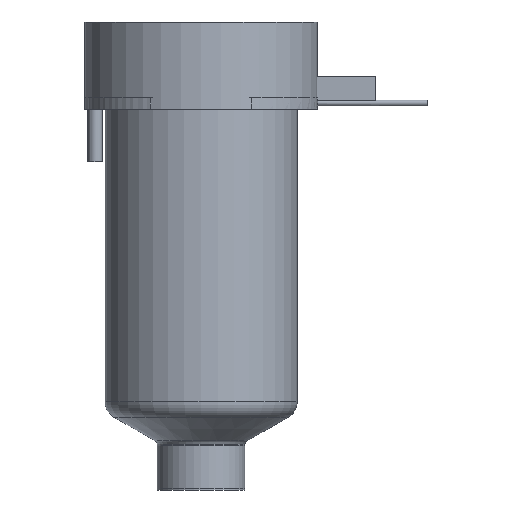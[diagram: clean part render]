
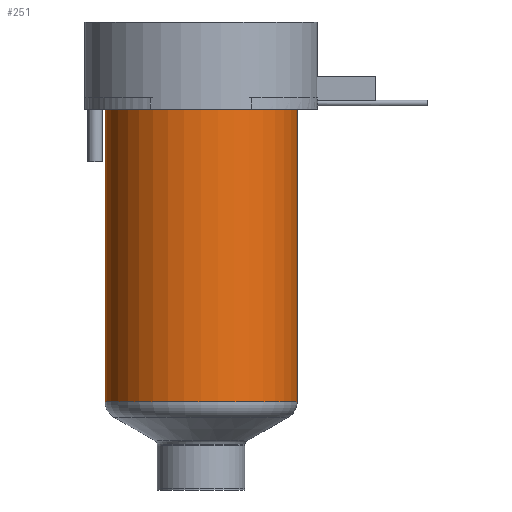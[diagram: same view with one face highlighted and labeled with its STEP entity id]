
A CAD part, front view. The second image highlights one B-rep face of the part: STEP entity #251.
In plain terms, the highlighted cylindrical face has radius 16.5 mm (diameter 33 mm), a full revolution.
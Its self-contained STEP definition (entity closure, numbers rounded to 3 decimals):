
#130=CYLINDRICAL_SURFACE('',#1117,16.5);
#184=FACE_BOUND('',#419,.T.);
#185=FACE_BOUND('',#420,.T.);
#251=ADVANCED_FACE('',(#184,#185),#130,.T.);
#419=EDGE_LOOP('',(#706));
#420=EDGE_LOOP('',(#707));
#487=CIRCLE('',#1115,16.5);
#488=CIRCLE('',#1116,16.5);
#706=ORIENTED_EDGE('',*,*,#915,.F.);
#707=ORIENTED_EDGE('',*,*,#916,.T.);
#801=VERTEX_POINT('',#1875);
#802=VERTEX_POINT('',#1877);
#915=EDGE_CURVE('',#801,#801,#487,.T.);
#916=EDGE_CURVE('',#802,#802,#488,.T.);
#1115=AXIS2_PLACEMENT_3D('',#1874,#1388,#1389);
#1116=AXIS2_PLACEMENT_3D('',#1876,#1390,#1391);
#1117=AXIS2_PLACEMENT_3D('',#1878,#1392,#1393);
#1388=DIRECTION('',(0.,0.,-1.));
#1389=DIRECTION('',(-1.,0.,0.));
#1390=DIRECTION('',(0.,0.,-1.));
#1391=DIRECTION('',(1.,0.,0.));
#1392=DIRECTION('',(0.,0.,-1.));
#1393=DIRECTION('',(-1.,0.,0.));
#1874=CARTESIAN_POINT('',(0.,0.,-65.247));
#1875=CARTESIAN_POINT('',(-16.5,0.,-65.247));
#1876=CARTESIAN_POINT('',(0.,0.,-15.1));
#1877=CARTESIAN_POINT('',(16.5,0.,-15.1));
#1878=CARTESIAN_POINT('',(0.,0.,0.));
